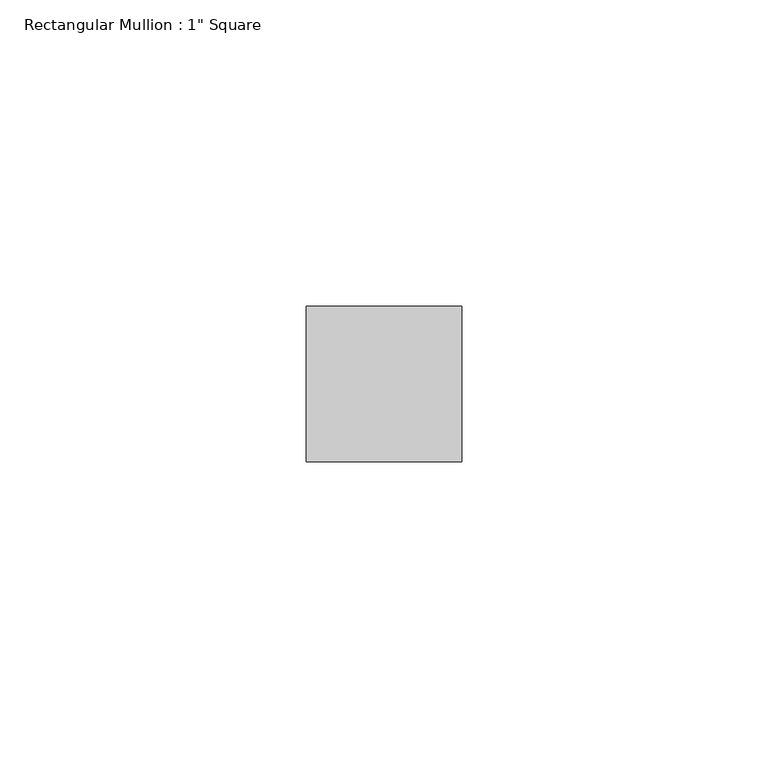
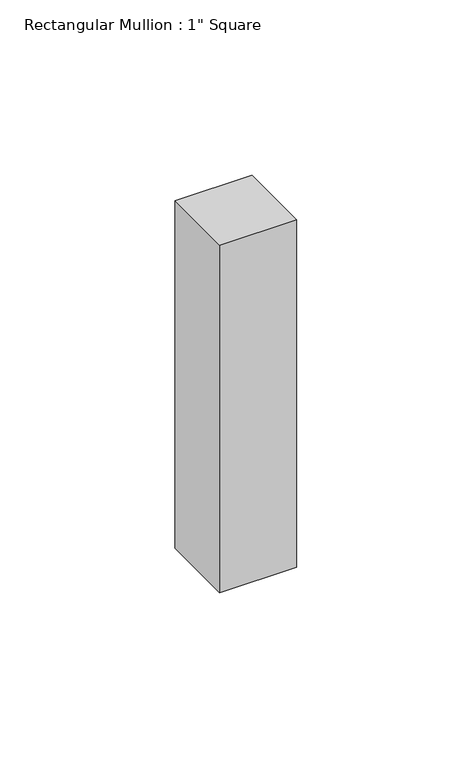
"""IFC4 building model written with IfcOpenShell, lengths in millimetres: member geometry."""

from ifc_helpers import new_model, si_unit, frame, origin, place, context, project, spatial, polyline, outline, extrude, source, transform, mapped, element, save


def member_691cbd0a(model_context):
    return source(origin(), model_context, "Body", "SweptSolid", [
        extrude(outline(polyline([(12.7, 12.7), (12.7, -12.7), (-12.7, -12.7), (-12.7, 12.7), (12.7, 12.7)])), frame((0.0, 0.0, -121.009874), z_axis=(0.0, 0.0, 1.0), x_axis=(1.0, 0.0, 0.0)), (0.0, 0.0, 1.0), 121.009874),
    ])


if __name__ == "__main__":
    model = new_model("IFC4")
    model_context = context("Model", 3, world=origin())
    ifc_project = project(units=[si_unit("LENGTHUNIT", "METRE", prefix="MILLI")], contexts=[model_context])
    site = spatial("IfcSite", under=ifc_project)
    building = spatial("IfcBuilding", under=site)
    placement = place(None, origin())
    member_shape = member_691cbd0a(model_context)
    element("IfcMember", 1, ObjectType="Rectangular Mullion : 1\" Square", at=placement, inside=building, context=model_context, shape_type="MappedRepresentation", body=[
        mapped(member_shape, transform((0.0, 0.0, 0.0), x_axis=(1.0, 0.0, 0.0), y_axis=(0.0, 1.0, 0.0), z_axis=(0.0, 0.0, 1.0))),
    ])
    save(model, "model.ifc")
